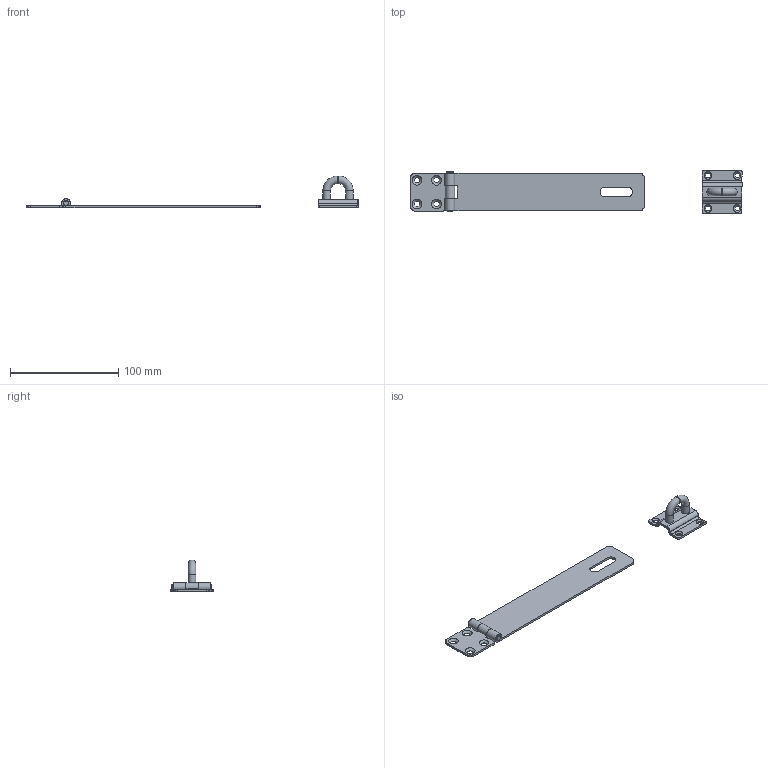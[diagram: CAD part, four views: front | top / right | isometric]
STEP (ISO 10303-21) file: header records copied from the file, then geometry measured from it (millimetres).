
FILE_DESCRIPTION(/* description */ (''),/* implementation_level */ '2;1');
FILE_NAME(/* name */ '\\NAS\db20\GS1-9\DR_GS1-9.stp',/* time_stamp */ '2017-08-31T10:25:46+09:00',/* author */ ('user'),/* organization */ (''),/* preprocessor_version */ 'ST-DEVELOPER v15.6',/* originating_system */ 'Autodesk Inventor 2015',/* authorisation */ '');
FILE_SCHEMA (('AUTOMOTIVE_DESIGN { 1 0 10303 214 3 1 1 }'));
Length unit declared in the file: millimetre
Products named in the file (5): DR_GS1-9-P1; DR_GS1-9-P2; DR_GS1-9-PIN; DR_GS1-9-P3; DR_GS1-9
Bounding box: 307.26 x 39.5 x 29.48 mm (x, y, z)
Volume: 20945.4 mm3; surface area: 22164 mm2
Topology: 4 solids, 4 shells, 117 faces, 280 edges, 175 vertices
Faces by surface type: plane 58, cylinder 46, cone 8, torus 5
Full cylindrical faces by diameter (mm): 4.5 x5, 5 x1, 6 x1, 7 x5
Entity records: 3352 total; most frequent: DIRECTION 606, CARTESIAN_POINT 540, ORIENTED_EDGE 494, EDGE_CURVE 247, AXIS2_PLACEMENT_3D 233, VERTEX_POINT 167, EDGE_LOOP 166, LINE 140
